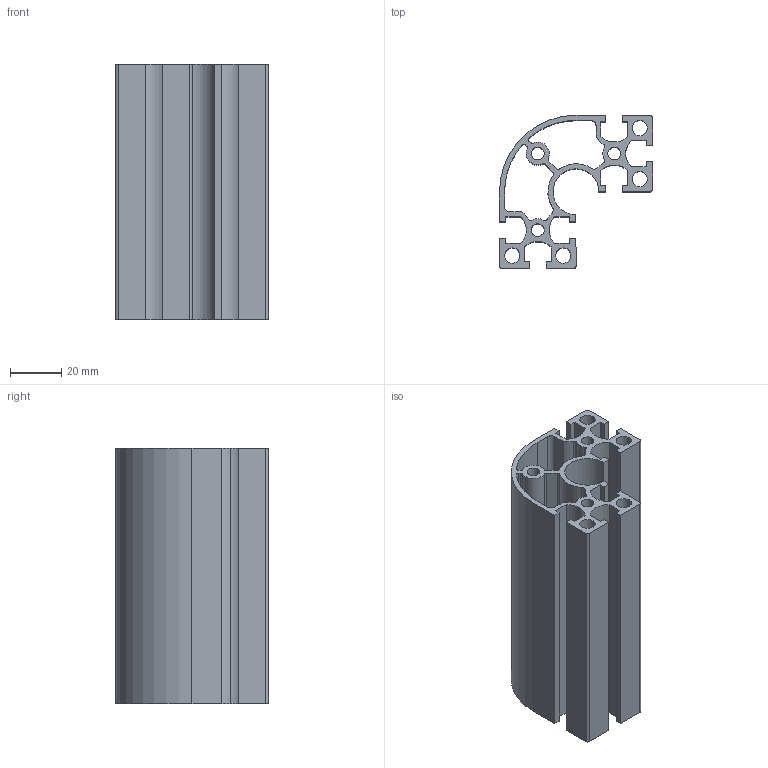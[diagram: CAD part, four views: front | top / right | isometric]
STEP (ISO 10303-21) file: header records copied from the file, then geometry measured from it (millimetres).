
FILE_DESCRIPTION (( 'STEP AP203' ), '1' );
FILE_NAME ('WSR6630-6.STEP', '2024-02-17T06:48:07', ( '' ), ( '' ), 'SwSTEP 2.0', 'SolidWorks 2022', '' );
FILE_SCHEMA (( 'CONFIG_CONTROL_DESIGN' ));
Length unit declared in the file: millimetre
Products named in the file (1): WSR6630-6
Bounding box: 60 x 60 x 100 mm (x, y, z)
Volume: 80761.3 mm3; surface area: 71420.7 mm2
Topology: 1 solids, 1 shells, 119 faces, 351 edges, 234 vertices
Faces by surface type: cylinder 61, plane 58
Entity records: 4120 total; most frequent: DIRECTION 713, CARTESIAN_POINT 705, ORIENTED_EDGE 702, EDGE_CURVE 351, AXIS2_PLACEMENT_3D 242, VERTEX_POINT 234, LINE 229, VECTOR 229
